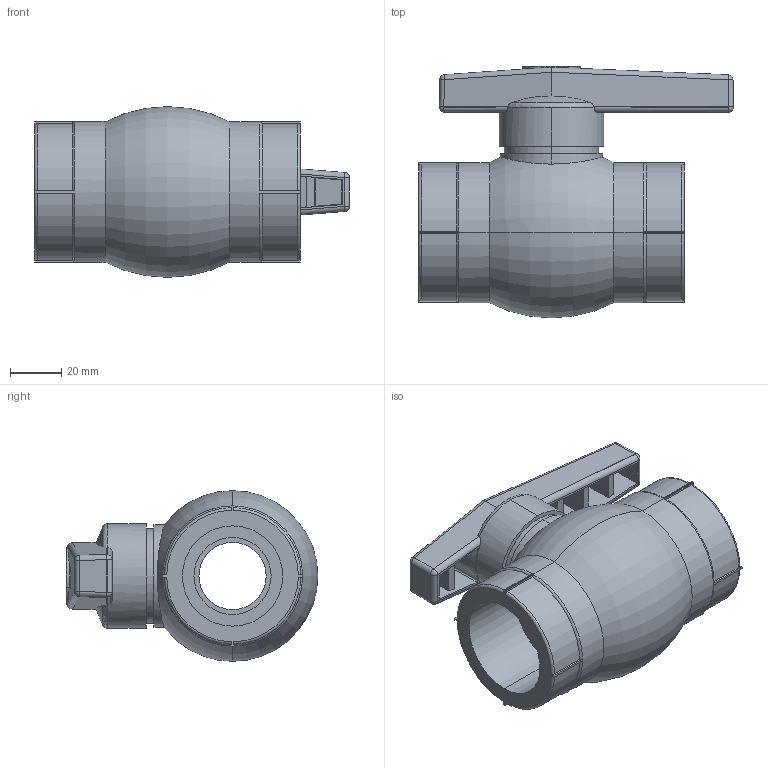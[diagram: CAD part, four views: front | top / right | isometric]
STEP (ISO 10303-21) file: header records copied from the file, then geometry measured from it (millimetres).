
FILE_DESCRIPTION (( 'STEP AP203' ), '1' );
FILE_NAME ('PKG2_GEN_ASM FADO 08.08.2020.STEP', '2022-08-22T13:52:19', ( '' ), ( '' ), 'SwSTEP 2.0', 'SolidWorks 2021', '' );
FILE_SCHEMA (( 'CONFIG_CONTROL_DESIGN' ));
Length unit declared in the file: millimetre
Products named in the file (6): PKG2_GEN_ASM FADO 08.08.2020; HPKG2; GPKG2; SPKG2; CPKG2; PLPKG2
Assembly tree (5 placements, depth 2):
  PKG2_GEN_ASM FADO 08.08.2020
    PLPKG2
    GPKG2
    SPKG2
    HPKG2
    CPKG2
Bounding box: 122.78 x 98.16 x 66.55 mm (x, y, z)
Volume: 226619 mm3; surface area: 71109.4 mm2
Topology: 5 solids, 5 shells, 313 faces, 826 edges, 534 vertices
Faces by surface type: plane 151, cylinder 96, torus 28, bspline 20, sphere 16, cone 2
Entity records: 12126 total; most frequent: CARTESIAN_POINT 3900, ORIENTED_EDGE 1630, DIRECTION 1534, EDGE_CURVE 815, AXIS2_PLACEMENT_3D 553, VERTEX_POINT 531, LINE 428, VECTOR 428
